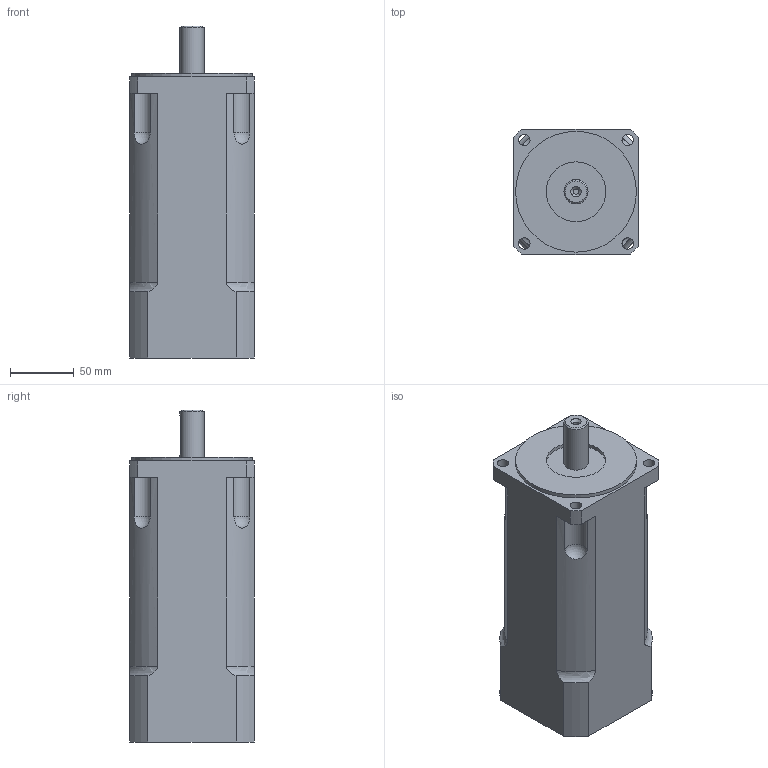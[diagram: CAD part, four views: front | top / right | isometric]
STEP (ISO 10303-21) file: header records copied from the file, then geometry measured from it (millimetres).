
FILE_DESCRIPTION(/* description */ ('Alibre Inc.'),/* implementation_level */ '2;1');
FILE_NAME(/* name */ 'export2',/* time_stamp */ '2013-04-11T14:07:03+02:00',/* author */ (''),/* organization */ (''),/* preprocessor_version */ 'ST-DEVELOPER v12',/* originating_system */ 'Alibre',/* authorisation */ '');
FILE_SCHEMA (('ALIBRE_SCHEMA','CONFIG_CONTROL_DESIGN'));
Length unit declared in the file: centimetre
Products named in the file (5): ID_1; ID_2
Bounding box: 98 x 98 x 261 mm (x, y, z)
Volume: 1999191 mm3; surface area: 114364 mm2
Topology: 4 solids, 4 shells, 135 faces, 342 edges, 222 vertices
Faces by surface type: cylinder 66, plane 59, torus 4, sphere 4, cone 2
Full cylindrical faces by diameter (mm): 2.7 x8, 4.134 x1, 9 x4, 19 x1, 20 x4, 24 x2, 47 x1, 95 x1
Entity records: 10740 total; most frequent: CARTESIAN_POINT 2204, DIRECTION 1151, ORIENTED_EDGE 952, AXIS2_PLACEMENT_3D 500, EDGE_CURVE 476, PERSISTANTTOPOLOGYATTRIBUTE 408, CIRCLE 331, VERTEX_POINT 324
